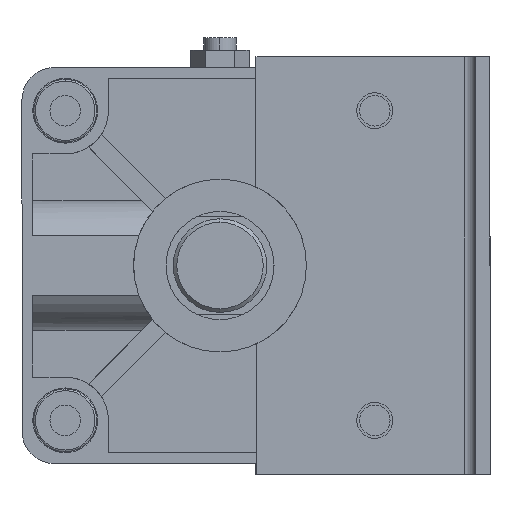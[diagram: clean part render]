
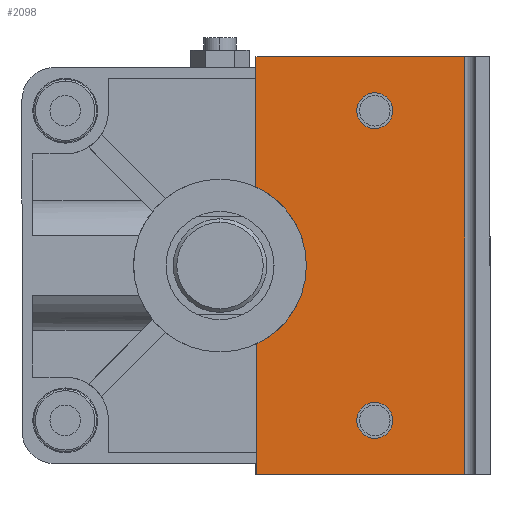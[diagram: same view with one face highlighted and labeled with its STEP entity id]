
A CAD part, left-side view. The second image highlights one B-rep face of the part: STEP entity #2098.
In plain terms, the highlighted planar face has unit normal (-1, 0, 0) as drawn and (0, 0, 1) by its records, which use the part's own axes.
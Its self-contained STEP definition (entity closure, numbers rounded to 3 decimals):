
#67 = ORIENTED_EDGE ( 'NONE', *, *, #8617, .T. ) ;
#262 = EDGE_CURVE ( 'NONE', #6973, #1682, #9614, .T. ) ;
#346 = CARTESIAN_POINT ( 'NONE',  ( -58., -42.5, 0. ) ) ;
#619 = DIRECTION ( 'NONE',  ( 1., 0., 0. ) ) ;
#830 = DIRECTION ( 'NONE',  ( -1., 0., 0. ) ) ;
#840 = LINE ( 'NONE', #1321, #3593 ) ;
#1115 = EDGE_LOOP ( 'NONE', ( #3877, #4175 ) ) ;
#1321 = CARTESIAN_POINT ( 'NONE',  ( 0., -10., 0. ) ) ;
#1370 = EDGE_CURVE ( 'NONE', #8866, #7634, #8216, .T. ) ;
#1495 = ORIENTED_EDGE ( 'NONE', *, *, #3928, .F. ) ;
#1530 = VECTOR ( 'NONE', #5219, 1000. ) ;
#1581 = CARTESIAN_POINT ( 'NONE',  ( 43., -43., 0. ) ) ;
#1629 = EDGE_LOOP ( 'NONE', ( #8595, #67 ) ) ;
#1646 = AXIS2_PLACEMENT_3D ( 'NONE', #1652, #6924, #3515 ) ;
#1652 = CARTESIAN_POINT ( 'NONE',  ( -58., -68., 0. ) ) ;
#1682 = VERTEX_POINT ( 'NONE', #5057 ) ;
#1862 = CARTESIAN_POINT ( 'NONE',  ( 48., -43., 0. ) ) ;
#2054 = CARTESIAN_POINT ( 'NONE',  ( 58., -42.5, 0. ) ) ;
#2098 = ADVANCED_FACE ( 'NONE', ( #9589, #7078, #7908 ), #3355, .T. ) ;
#2130 = ORIENTED_EDGE ( 'NONE', *, *, #1370, .T. ) ;
#2204 = CARTESIAN_POINT ( 'NONE',  ( 43., -43., 0. ) ) ;
#2398 = VECTOR ( 'NONE', #830, 1000. ) ;
#2711 = EDGE_LOOP ( 'NONE', ( #3220, #2130, #4155, #1495, #5141, #7747 ) ) ;
#2919 = CARTESIAN_POINT ( 'NONE',  ( 58., -68., 0. ) ) ;
#3181 = CARTESIAN_POINT ( 'NONE',  ( -58., -68., 0. ) ) ;
#3220 = ORIENTED_EDGE ( 'NONE', *, *, #5036, .T. ) ;
#3318 = DIRECTION ( 'NONE',  ( 1., 0., 0. ) ) ;
#3351 = VERTEX_POINT ( 'NONE', #5375 ) ;
#3355 = PLANE ( 'NONE',  #1646 ) ;
#3393 = CARTESIAN_POINT ( 'NONE',  ( -21.817, -10., 0. ) ) ;
#3440 = EDGE_CURVE ( 'NONE', #1682, #6973, #9054, .T. ) ;
#3515 = DIRECTION ( 'NONE',  ( 1., 0., 0. ) ) ;
#3593 = VECTOR ( 'NONE', #9913, 1000. ) ;
#3849 = VERTEX_POINT ( 'NONE', #9499 ) ;
#3877 = ORIENTED_EDGE ( 'NONE', *, *, #262, .T. ) ;
#3888 = AXIS2_PLACEMENT_3D ( 'NONE', #9548, #5075, #3318 ) ;
#3928 = EDGE_CURVE ( 'NONE', #7461, #5269, #6680, .T. ) ;
#3934 = CIRCLE ( 'NONE', #6314, 5. ) ;
#4030 = CARTESIAN_POINT ( 'NONE',  ( 21.817, -10., 0. ) ) ;
#4155 = ORIENTED_EDGE ( 'NONE', *, *, #5278, .F. ) ;
#4175 = ORIENTED_EDGE ( 'NONE', *, *, #3440, .T. ) ;
#4477 = EDGE_CURVE ( 'NONE', #3849, #7415, #840, .T. ) ;
#4589 = LINE ( 'NONE', #2054, #1530 ) ;
#4590 = AXIS2_PLACEMENT_3D ( 'NONE', #2204, #6355, #6178 ) ;
#4816 = VERTEX_POINT ( 'NONE', #1862 ) ;
#4939 = CARTESIAN_POINT ( 'NONE',  ( -58., -10., 0. ) ) ;
#5036 = EDGE_CURVE ( 'NONE', #7415, #8866, #7403, .T. ) ;
#5057 = CARTESIAN_POINT ( 'NONE',  ( -48., -43., 0. ) ) ;
#5075 = DIRECTION ( 'NONE',  ( 0., 0., -1. ) ) ;
#5106 = CARTESIAN_POINT ( 'NONE',  ( -38., -43., 0. ) ) ;
#5141 = ORIENTED_EDGE ( 'NONE', *, *, #5849, .F. ) ;
#5219 = DIRECTION ( 'NONE',  ( 0., -1., 0. ) ) ;
#5250 = DIRECTION ( 'NONE',  ( 0., 0., -1. ) ) ;
#5269 = VERTEX_POINT ( 'NONE', #3181 ) ;
#5278 = EDGE_CURVE ( 'NONE', #5269, #7634, #7571, .T. ) ;
#5323 = CIRCLE ( 'NONE', #4590, 5. ) ;
#5375 = CARTESIAN_POINT ( 'NONE',  ( 38., -43., 0. ) ) ;
#5525 = AXIS2_PLACEMENT_3D ( 'NONE', #9510, #6675, #6157 ) ;
#5849 = EDGE_CURVE ( 'NONE', #3849, #7461, #4589, .T. ) ;
#5889 = CARTESIAN_POINT ( 'NONE',  ( 0., -10., 0. ) ) ;
#5990 = DIRECTION ( 'NONE',  ( -1., 0., 0. ) ) ;
#6157 = DIRECTION ( 'NONE',  ( 1., 0., 0. ) ) ;
#6178 = DIRECTION ( 'NONE',  ( 1., 0., 0. ) ) ;
#6314 = AXIS2_PLACEMENT_3D ( 'NONE', #1581, #7845, #619 ) ;
#6352 = VECTOR ( 'NONE', #9722, 1000. ) ;
#6355 = DIRECTION ( 'NONE',  ( 0., 0., -1. ) ) ;
#6380 = AXIS2_PLACEMENT_3D ( 'NONE', #8876, #5250, #9899 ) ;
#6675 = DIRECTION ( 'NONE',  ( 0., 0., -1. ) ) ;
#6680 = LINE ( 'NONE', #8487, #9351 ) ;
#6924 = DIRECTION ( 'NONE',  ( 0., 0., 1. ) ) ;
#6973 = VERTEX_POINT ( 'NONE', #5106 ) ;
#7078 = FACE_BOUND ( 'NONE', #1629, .T. ) ;
#7178 = EDGE_CURVE ( 'NONE', #4816, #3351, #5323, .T. ) ;
#7403 = CIRCLE ( 'NONE', #5525, 24. ) ;
#7415 = VERTEX_POINT ( 'NONE', #4030 ) ;
#7461 = VERTEX_POINT ( 'NONE', #2919 ) ;
#7571 = LINE ( 'NONE', #346, #6352 ) ;
#7634 = VERTEX_POINT ( 'NONE', #4939 ) ;
#7747 = ORIENTED_EDGE ( 'NONE', *, *, #4477, .T. ) ;
#7845 = DIRECTION ( 'NONE',  ( 0., 0., -1. ) ) ;
#7908 = FACE_OUTER_BOUND ( 'NONE', #2711, .T. ) ;
#8216 = LINE ( 'NONE', #5889, #2398 ) ;
#8487 = CARTESIAN_POINT ( 'NONE',  ( 0., -68., 0. ) ) ;
#8595 = ORIENTED_EDGE ( 'NONE', *, *, #7178, .T. ) ;
#8617 = EDGE_CURVE ( 'NONE', #3351, #4816, #3934, .T. ) ;
#8866 = VERTEX_POINT ( 'NONE', #3393 ) ;
#8876 = CARTESIAN_POINT ( 'NONE',  ( -43., -43., 0. ) ) ;
#9054 = CIRCLE ( 'NONE', #3888, 5. ) ;
#9351 = VECTOR ( 'NONE', #5990, 1000. ) ;
#9499 = CARTESIAN_POINT ( 'NONE',  ( 58., -10., 0. ) ) ;
#9510 = CARTESIAN_POINT ( 'NONE',  ( 0., 0., 0. ) ) ;
#9548 = CARTESIAN_POINT ( 'NONE',  ( -43., -43., 0. ) ) ;
#9589 = FACE_BOUND ( 'NONE', #1115, .T. ) ;
#9614 = CIRCLE ( 'NONE', #6380, 5. ) ;
#9722 = DIRECTION ( 'NONE',  ( 0., 1., 0. ) ) ;
#9899 = DIRECTION ( 'NONE',  ( 1., 0., 0. ) ) ;
#9913 = DIRECTION ( 'NONE',  ( -1., 0., 0. ) ) ;
